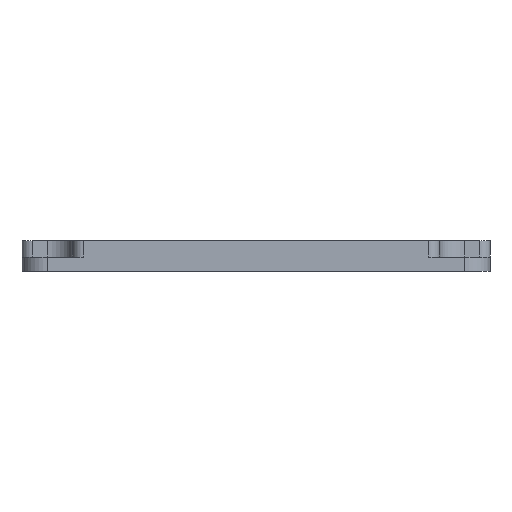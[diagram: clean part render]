
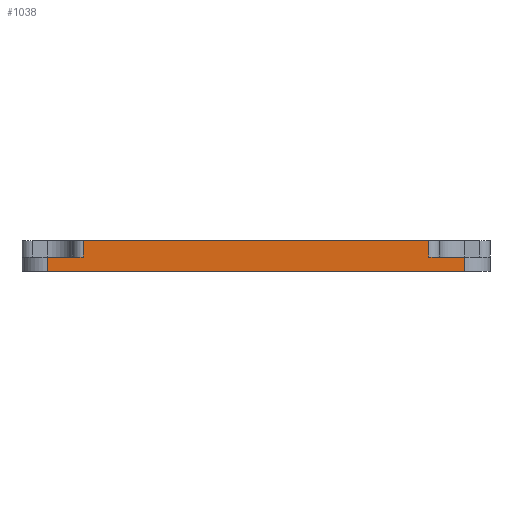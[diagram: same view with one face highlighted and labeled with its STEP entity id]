
A CAD part, front view. The second image highlights one B-rep face of the part: STEP entity #1038.
In plain terms, the highlighted planar face has unit normal (0, -1, 0).
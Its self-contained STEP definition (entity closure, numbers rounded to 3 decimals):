
#29=PLANE('',#1140);
#65=FACE_OUTER_BOUND('',#123,.T.);
#123=EDGE_LOOP('',(#768,#769,#770,#771,#772,#773,#774,#775));
#251=LINE('',#2639,#327);
#256=LINE('',#3256,#332);
#262=LINE('',#3281,#338);
#264=LINE('',#3287,#340);
#265=LINE('',#3289,#341);
#266=LINE('',#3291,#342);
#267=LINE('',#3292,#343);
#268=LINE('',#3293,#344);
#327=VECTOR('',#1266,10.);
#332=VECTOR('',#1285,10.);
#338=VECTOR('',#1311,10.);
#340=VECTOR('',#1317,10.);
#341=VECTOR('',#1318,10.);
#342=VECTOR('',#1319,10.);
#343=VECTOR('',#1320,10.);
#344=VECTOR('',#1321,10.);
#433=VERTEX_POINT('',#2636);
#434=VERTEX_POINT('',#2638);
#443=VERTEX_POINT('',#3253);
#444=VERTEX_POINT('',#3255);
#453=VERTEX_POINT('',#3280);
#455=VERTEX_POINT('',#3286);
#456=VERTEX_POINT('',#3288);
#457=VERTEX_POINT('',#3290);
#539=EDGE_CURVE('',#433,#434,#251,.T.);
#557=EDGE_CURVE('',#443,#444,#256,.T.);
#569=EDGE_CURVE('',#434,#453,#262,.T.);
#572=EDGE_CURVE('',#453,#455,#264,.T.);
#573=EDGE_CURVE('',#456,#433,#265,.T.);
#574=EDGE_CURVE('',#457,#456,#266,.T.);
#575=EDGE_CURVE('',#444,#457,#267,.T.);
#576=EDGE_CURVE('',#455,#443,#268,.T.);
#768=ORIENTED_EDGE('',*,*,#572,.F.);
#769=ORIENTED_EDGE('',*,*,#569,.F.);
#770=ORIENTED_EDGE('',*,*,#539,.F.);
#771=ORIENTED_EDGE('',*,*,#573,.F.);
#772=ORIENTED_EDGE('',*,*,#574,.F.);
#773=ORIENTED_EDGE('',*,*,#575,.F.);
#774=ORIENTED_EDGE('',*,*,#557,.F.);
#775=ORIENTED_EDGE('',*,*,#576,.F.);
#1038=ADVANCED_FACE('',(#65),#29,.T.);
#1140=AXIS2_PLACEMENT_3D('',#3285,#1315,#1316);
#1266=DIRECTION('',(1.,0.,0.));
#1285=DIRECTION('',(-1.,0.,0.));
#1311=DIRECTION('',(0.,0.,-1.));
#1315=DIRECTION('center_axis',(0.,-1.,0.));
#1316=DIRECTION('ref_axis',(1.,0.,0.));
#1317=DIRECTION('',(1.,0.,0.));
#1318=DIRECTION('',(0.,0.,1.));
#1319=DIRECTION('',(1.,0.,0.));
#1320=DIRECTION('',(0.,0.,1.));
#1321=DIRECTION('',(0.,0.,-1.));
#2636=CARTESIAN_POINT('',(-17.,-23.,3.));
#2638=CARTESIAN_POINT('',(17.,-23.,3.));
#2639=CARTESIAN_POINT('',(23.,-23.,3.));
#3253=CARTESIAN_POINT('',(20.5,-23.,0.));
#3255=CARTESIAN_POINT('',(-20.5,-23.,0.));
#3256=CARTESIAN_POINT('',(23.,-23.,0.));
#3280=CARTESIAN_POINT('',(17.,-23.,1.4));
#3281=CARTESIAN_POINT('',(17.,-23.,1.5));
#3285=CARTESIAN_POINT('Origin',(-23.,-23.,0.));
#3286=CARTESIAN_POINT('',(20.5,-23.,1.4));
#3287=CARTESIAN_POINT('',(-1.119,-23.,1.4));
#3288=CARTESIAN_POINT('',(-17.,-23.,1.4));
#3289=CARTESIAN_POINT('',(-17.,-23.,1.5));
#3290=CARTESIAN_POINT('',(-20.5,-23.,1.4));
#3291=CARTESIAN_POINT('',(-21.881,-23.,1.4));
#3292=CARTESIAN_POINT('',(-20.5,-23.,0.));
#3293=CARTESIAN_POINT('',(20.5,-23.,0.));
